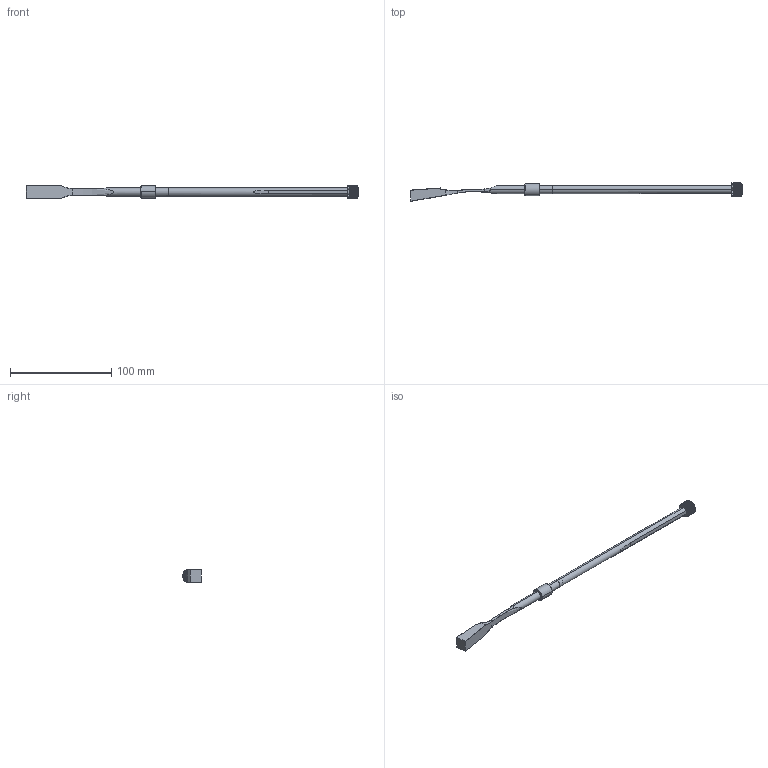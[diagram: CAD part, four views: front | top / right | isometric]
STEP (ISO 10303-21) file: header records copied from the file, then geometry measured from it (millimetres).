
FILE_DESCRIPTION (( 'STEP AP214' ), '1' );
FILE_NAME ('PX081230-325.Abierta.STEP', '2020-02-10T10:02:19', ( '' ), ( '' ), 'SwSTEP 2.0', 'SolidWorks 2018', '' );
FILE_SCHEMA (( 'AUTOMOTIVE_DESIGN' ));
Length unit declared in the file: millimetre
Products named in the file (8): 9AX080184 rectificado plano; JT ﾘ8X1,5; 8PX081230 Rosca Mecha abierta; 9TP0810HX-1; 9PX081230-325_cerrada; 9TP0810HX; PX081230-325.Abierta; 9CS081215
Assembly tree (7 placements, depth 3):
  PX081230-325.Abierta
    9CS081215
    9TP0810HX
      9TP0810HX-1
      JT ﾘ8X1,5
    9PX081230-325_cerrada
      8PX081230 Rosca Mecha abierta
      9AX080184 rectificado plano
Bounding box: 328.44 x 18.57 x 13.79 mm (x, y, z)
Volume: 18960 mm3; surface area: 11950.6 mm2
Topology: 5 solids, 5 shells, 402 faces, 1117 edges, 728 vertices
Faces by surface type: plane 210, cylinder 133, cone 31, torus 14, bspline 14
Entity records: 15598 total; most frequent: CARTESIAN_POINT 5591, ORIENTED_EDGE 2230, DIRECTION 1785, EDGE_CURVE 1115, VERTEX_POINT 728, AXIS2_PLACEMENT_3D 704, B_SPLINE_CURVE_WITH_KNOTS 427, EDGE_LOOP 413
